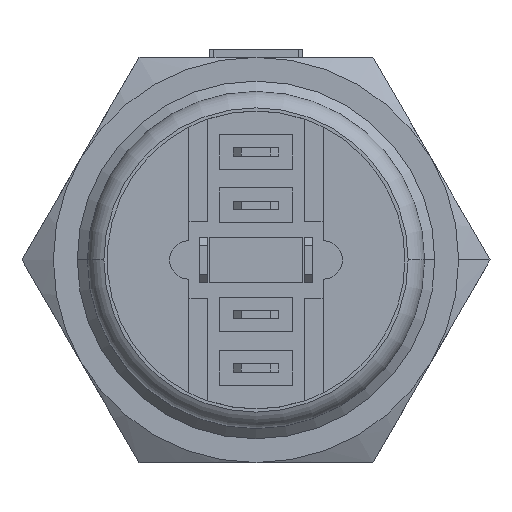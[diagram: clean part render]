
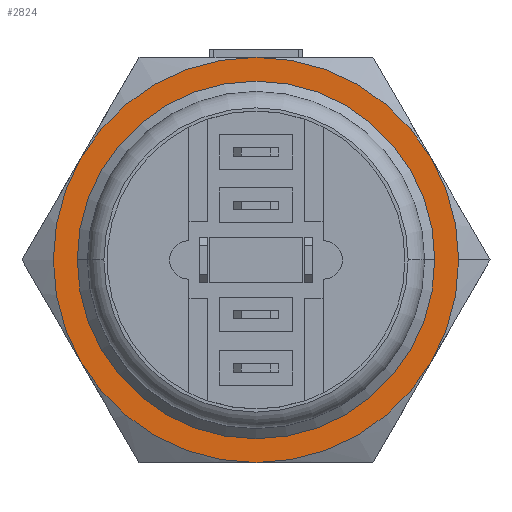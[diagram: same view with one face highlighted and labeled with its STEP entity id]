
A CAD part, front view. The second image highlights one B-rep face of the part: STEP entity #2824.
In plain terms, the highlighted planar face has unit normal (0, -1, 0).
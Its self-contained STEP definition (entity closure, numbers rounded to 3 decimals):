
#31 = EDGE_LOOP ( 'NONE', ( #4262, #4260, #4259, #4268, #4258, #4257, #4256 ) ) ;
#344 = CARTESIAN_POINT ( 'NONE',  ( 0., 3.664, 0. ) ) ;
#351 = DIRECTION ( 'NONE',  ( 0., -1., 0. ) ) ;
#352 = DIRECTION ( 'NONE',  ( 1., 0., 0. ) ) ;
#383 = CARTESIAN_POINT ( 'NONE',  ( 0., 3.664, 0. ) ) ;
#384 = DIRECTION ( 'NONE',  ( 0., 1., 0. ) ) ;
#385 = DIRECTION ( 'NONE',  ( -1., 0., 0. ) ) ;
#727 = CARTESIAN_POINT ( 'NONE',  ( 10.925, 3.664, 0. ) ) ;
#748 = CARTESIAN_POINT ( 'NONE',  ( 12.384, 3.664, 0. ) ) ;
#752 = CARTESIAN_POINT ( 'NONE',  ( -10.925, 3.664, 0. ) ) ;
#796 = CARTESIAN_POINT ( 'NONE',  ( 10.725, 3.664, 6.192 ) ) ;
#888 = CARTESIAN_POINT ( 'NONE',  ( 0., 3.664, -12.384 ) ) ;
#908 = CARTESIAN_POINT ( 'NONE',  ( -10.725, 3.664, -6.192 ) ) ;
#1109 = CARTESIAN_POINT ( 'NONE',  ( 10.725, 3.664, -6.192 ) ) ;
#1121 = CARTESIAN_POINT ( 'NONE',  ( -10.725, 3.664, 6.192 ) ) ;
#1130 = CARTESIAN_POINT ( 'NONE',  ( 0., 3.664, 12.384 ) ) ;
#1353 = CARTESIAN_POINT ( 'NONE',  ( 0., 3.664, 0. ) ) ;
#1354 = DIRECTION ( 'NONE',  ( 0., 1., 0. ) ) ;
#1355 = DIRECTION ( 'NONE',  ( -1., 0., 0. ) ) ;
#1356 = CARTESIAN_POINT ( 'NONE',  ( 0., 3.664, 0. ) ) ;
#1357 = DIRECTION ( 'NONE',  ( 0., -1., 0. ) ) ;
#1358 = DIRECTION ( 'NONE',  ( 1., 0., 0. ) ) ;
#1359 = CARTESIAN_POINT ( 'NONE',  ( 0., 3.664, 0. ) ) ;
#1360 = DIRECTION ( 'NONE',  ( 0., -1., 0. ) ) ;
#1361 = DIRECTION ( 'NONE',  ( 1., 0., 0. ) ) ;
#1362 = CARTESIAN_POINT ( 'NONE',  ( 0., 3.664, 0. ) ) ;
#1363 = DIRECTION ( 'NONE',  ( 0., -1., 0. ) ) ;
#1364 = DIRECTION ( 'NONE',  ( 1., 0., 0. ) ) ;
#1365 = CARTESIAN_POINT ( 'NONE',  ( 0., 3.664, 0. ) ) ;
#1366 = DIRECTION ( 'NONE',  ( 0., -1., 0. ) ) ;
#1367 = DIRECTION ( 'NONE',  ( 1., 0., 0. ) ) ;
#1368 = CARTESIAN_POINT ( 'NONE',  ( 0., 3.664, 0. ) ) ;
#1369 = DIRECTION ( 'NONE',  ( 0., -1., 0. ) ) ;
#1370 = DIRECTION ( 'NONE',  ( 1., 0., 0. ) ) ;
#1371 = CARTESIAN_POINT ( 'NONE',  ( 0., 3.664, 0. ) ) ;
#1372 = DIRECTION ( 'NONE',  ( 0., -1., 0. ) ) ;
#1373 = DIRECTION ( 'NONE',  ( 1., 0., 0. ) ) ;
#1636 = PLANE ( 'NONE',  #6065 ) ;
#1637 = CARTESIAN_POINT ( 'NONE',  ( -10.925, 3.664, 0. ) ) ;
#1638 = DIRECTION ( 'NONE',  ( 0., -1., 0. ) ) ;
#1639 = DIRECTION ( 'NONE',  ( 1., 0., 0. ) ) ;
#2693 = EDGE_CURVE ( 'NONE', #4604, #4648, #6212, .T. ) ;
#2695 = EDGE_CURVE ( 'NONE', #5199, #5179, #6293, .T. ) ;
#2697 = EDGE_CURVE ( 'NONE', #5412, #5199, #6226, .T. ) ;
#2698 = EDGE_CURVE ( 'NONE', #5421, #5412, #6239, .T. ) ;
#2700 = EDGE_CURVE ( 'NONE', #4700, #5421, #6292, .T. ) ;
#2701 = EDGE_CURVE ( 'NONE', #5400, #4642, #6327, .T. ) ;
#2703 = EDGE_CURVE ( 'NONE', #5179, #5400, #6307, .T. ) ;
#2824 = ADVANCED_FACE ( 'NONE', ( #6072, #6067 ), #1636, .T. ) ;
#3396 = EDGE_CURVE ( 'NONE', #4642, #4700, #6283, .T. ) ;
#3411 = EDGE_CURVE ( 'NONE', #4648, #4604, #6289, .T. ) ;
#4256 = ORIENTED_EDGE ( 'NONE', *, *, #2703, .T. ) ;
#4257 = ORIENTED_EDGE ( 'NONE', *, *, #2695, .T. ) ;
#4258 = ORIENTED_EDGE ( 'NONE', *, *, #2697, .T. ) ;
#4259 = ORIENTED_EDGE ( 'NONE', *, *, #2700, .T. ) ;
#4260 = ORIENTED_EDGE ( 'NONE', *, *, #3396, .T. ) ;
#4262 = ORIENTED_EDGE ( 'NONE', *, *, #2701, .T. ) ;
#4264 = ORIENTED_EDGE ( 'NONE', *, *, #2693, .T. ) ;
#4266 = ORIENTED_EDGE ( 'NONE', *, *, #3411, .T. ) ;
#4268 = ORIENTED_EDGE ( 'NONE', *, *, #2698, .T. ) ;
#4604 = VERTEX_POINT ( 'NONE', #727 ) ;
#4642 = VERTEX_POINT ( 'NONE', #748 ) ;
#4648 = VERTEX_POINT ( 'NONE', #752 ) ;
#4700 = VERTEX_POINT ( 'NONE', #796 ) ;
#5179 = VERTEX_POINT ( 'NONE', #888 ) ;
#5199 = VERTEX_POINT ( 'NONE', #908 ) ;
#5400 = VERTEX_POINT ( 'NONE', #1109 ) ;
#5412 = VERTEX_POINT ( 'NONE', #1121 ) ;
#5421 = VERTEX_POINT ( 'NONE', #1130 ) ;
#5529 = AXIS2_PLACEMENT_3D ( 'NONE', #1365, #1366, #1367 ) ;
#5592 = AXIS2_PLACEMENT_3D ( 'NONE', #1353, #1354, #1355 ) ;
#5594 = AXIS2_PLACEMENT_3D ( 'NONE', #1359, #1360, #1361 ) ;
#5614 = AXIS2_PLACEMENT_3D ( 'NONE', #383, #384, #385 ) ;
#5629 = AXIS2_PLACEMENT_3D ( 'NONE', #344, #351, #352 ) ;
#5818 = AXIS2_PLACEMENT_3D ( 'NONE', #1371, #1372, #1373 ) ;
#5820 = AXIS2_PLACEMENT_3D ( 'NONE', #1356, #1357, #1358 ) ;
#5823 = AXIS2_PLACEMENT_3D ( 'NONE', #1368, #1369, #1370 ) ;
#5842 = AXIS2_PLACEMENT_3D ( 'NONE', #1362, #1363, #1364 ) ;
#6065 = AXIS2_PLACEMENT_3D ( 'NONE', #1637, #1638, #1639 ) ;
#6067 = FACE_OUTER_BOUND ( 'NONE', #31, .T. ) ;
#6072 = FACE_BOUND ( 'NONE', #8122, .T. ) ;
#6212 = CIRCLE ( 'NONE', #5592, 10.925 ) ;
#6226 = CIRCLE ( 'NONE', #5594, 12.384 ) ;
#6239 = CIRCLE ( 'NONE', #5842, 12.384 ) ;
#6283 = CIRCLE ( 'NONE', #5629, 12.384 ) ;
#6289 = CIRCLE ( 'NONE', #5614, 10.925 ) ;
#6292 = CIRCLE ( 'NONE', #5529, 12.384 ) ;
#6293 = CIRCLE ( 'NONE', #5820, 12.384 ) ;
#6307 = CIRCLE ( 'NONE', #5818, 12.384 ) ;
#6327 = CIRCLE ( 'NONE', #5823, 12.384 ) ;
#8122 = EDGE_LOOP ( 'NONE', ( #4266, #4264 ) ) ;
